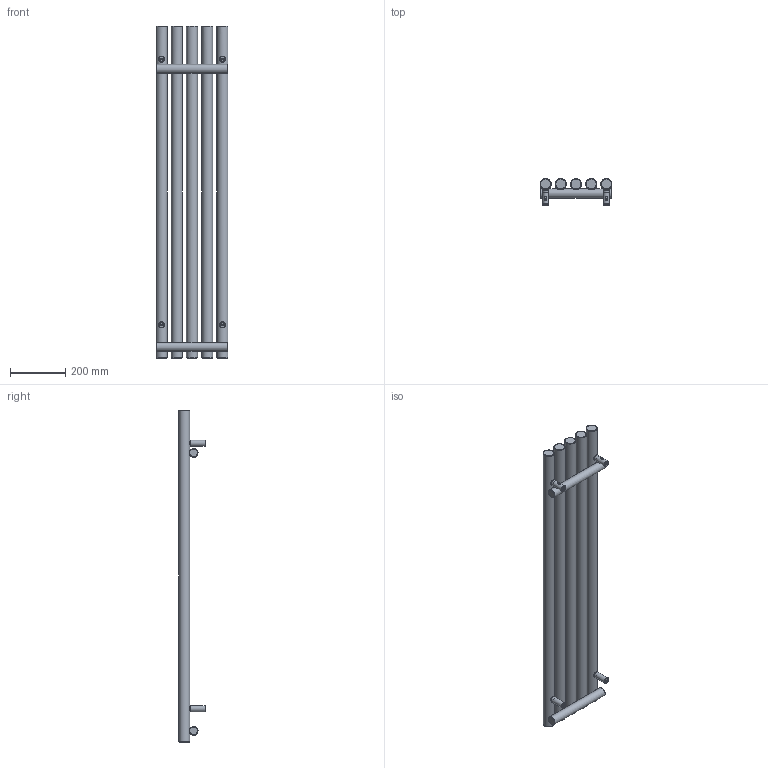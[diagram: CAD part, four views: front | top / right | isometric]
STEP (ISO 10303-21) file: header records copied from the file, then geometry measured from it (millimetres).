
FILE_DESCRIPTION(/* description */ (''),/* implementation_level */ '2;1');
FILE_NAME(/* name */ 'Z:\R\G\P\RGP116 - Grzejniki Geyser\Work\Inventor\Circolo (Rolo V, Rolo H)\ROLO-ROOM\Marketing\Bryły 3D\Zaokrąglone\WLROR120026-ES-CK-(Z).stp',/* time_stamp */ '2024-04-03T09:04:01+02:00',/* author */ ('NowAd'),/* organization */ (''),/* preprocessor_version */ 'ST-DEVELOPER v17.2',/* originating_system */ 'Autodesk Inventor 2019',/* authorisation */ '');
FILE_SCHEMA (('AUTOMOTIVE_DESIGN { 1 0 10303 214 3 1 1 }'));
Length unit declared in the file: millimetre
Products named in the file (3): WLROR120026-ES-CK-(Z); PGROR120026-ES-CK-(K); CK-V-fi40 marketing
Assembly tree (5 placements, depth 2):
  WLROR120026-ES-CK-(Z)
    PGROR120026-ES-CK-(K)
    CK-V-fi40 marketing  x4
Bounding box: 260 x 96.5 x 1200 mm (x, y, z)
Volume: 7999465.5 mm3; surface area: 847780.6 mm2
Topology: 5 solids, 5 shells, 317 faces, 799 edges, 534 vertices
Faces by surface type: plane 132, cylinder 73, cone 60, torus 42, bspline 10
Full cylindrical faces by diameter (mm): 4.134 x4, 4.48 x4, 6.4 x4, 10 x4, 12 x4, 15.834 x4, 16 x4, 18.631 x2, 22 x4, 32 x2, 40 x5
Entity records: 6277 total; most frequent: CARTESIAN_POINT 3041, DIRECTION 676, ORIENTED_EDGE 636, EDGE_CURVE 318, AXIS2_PLACEMENT_3D 301, VERTEX_POINT 216, EDGE_LOOP 172, CIRCLE 161
